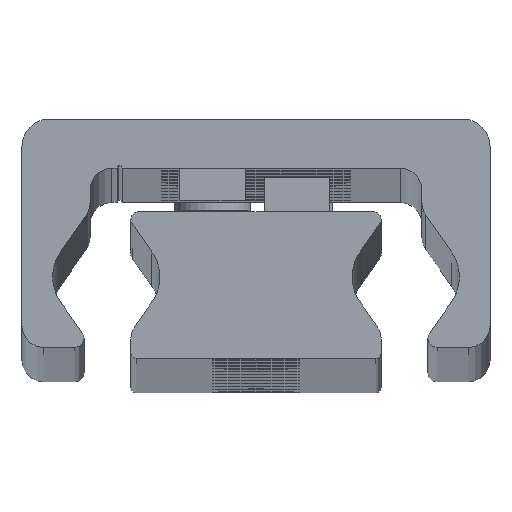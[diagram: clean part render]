
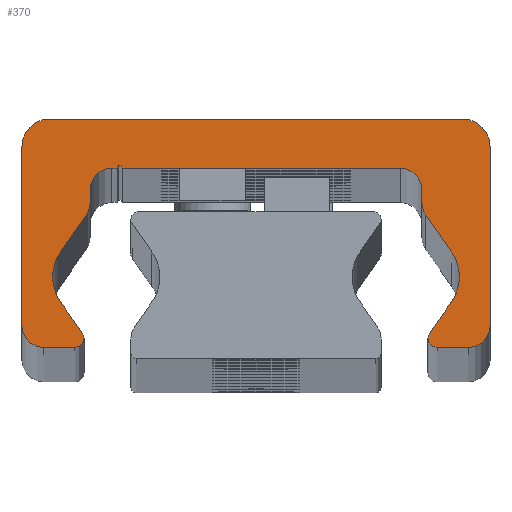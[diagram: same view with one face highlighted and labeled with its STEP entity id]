
A CAD part, top view. The second image highlights one B-rep face of the part: STEP entity #370.
In plain terms, the highlighted planar face has unit normal (0, 0, 1).
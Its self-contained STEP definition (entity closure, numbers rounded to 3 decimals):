
#370=ADVANCED_FACE('',(#1080),#1081,.T.);
#1080=FACE_OUTER_BOUND('',#1791,.T.);
#1081=PLANE('',#1792);
#1791=EDGE_LOOP('',(#4162,#4163,#4164,#4165,#4166,#4167,#4168,#4169,#4170,#4171,#4172,#4173,#4174,#4175,#4176,#4177,#4178,#4179,#4180,#4181,#4182,#4183,#4184,#4185,#4186,#4187,#4188,#4189,#4190,#4191));
#1792=AXIS2_PLACEMENT_3D('',#4192,#4193,#4194);
#4162=ORIENTED_EDGE('',*,*,#4649,.F.);
#4163=ORIENTED_EDGE('',*,*,#4982,.F.);
#4164=ORIENTED_EDGE('',*,*,#4635,.F.);
#4165=ORIENTED_EDGE('',*,*,#4981,.F.);
#4166=ORIENTED_EDGE('',*,*,#4977,.F.);
#4167=ORIENTED_EDGE('',*,*,#4974,.F.);
#4168=ORIENTED_EDGE('',*,*,#4971,.F.);
#4169=ORIENTED_EDGE('',*,*,#4968,.F.);
#4170=ORIENTED_EDGE('',*,*,#4965,.F.);
#4171=ORIENTED_EDGE('',*,*,#4962,.F.);
#4172=ORIENTED_EDGE('',*,*,#4959,.F.);
#4173=ORIENTED_EDGE('',*,*,#4956,.F.);
#4174=ORIENTED_EDGE('',*,*,#4953,.F.);
#4175=ORIENTED_EDGE('',*,*,#4950,.F.);
#4176=ORIENTED_EDGE('',*,*,#4641,.F.);
#4177=ORIENTED_EDGE('',*,*,#4948,.F.);
#4178=ORIENTED_EDGE('',*,*,#4643,.F.);
#4179=ORIENTED_EDGE('',*,*,#4947,.F.);
#4180=ORIENTED_EDGE('',*,*,#4943,.F.);
#4181=ORIENTED_EDGE('',*,*,#4940,.F.);
#4182=ORIENTED_EDGE('',*,*,#4937,.F.);
#4183=ORIENTED_EDGE('',*,*,#4934,.F.);
#4184=ORIENTED_EDGE('',*,*,#4931,.F.);
#4185=ORIENTED_EDGE('',*,*,#4928,.F.);
#4186=ORIENTED_EDGE('',*,*,#4925,.F.);
#4187=ORIENTED_EDGE('',*,*,#4922,.F.);
#4188=ORIENTED_EDGE('',*,*,#4919,.F.);
#4189=ORIENTED_EDGE('',*,*,#4916,.F.);
#4190=ORIENTED_EDGE('',*,*,#4913,.F.);
#4191=ORIENTED_EDGE('',*,*,#4910,.F.);
#4192=CARTESIAN_POINT('',(-0.023,14.187,1810.0));
#4193=DIRECTION('',(0.0,0.0,1.0));
#4194=DIRECTION('',(1.0,0.0,0.0));
#4635=EDGE_CURVE('',#5630,#5633,#5634,.T.);
#4641=EDGE_CURVE('',#5643,#5639,#5645,.T.);
#4643=EDGE_CURVE('',#5646,#5649,#5650,.T.);
#4649=EDGE_CURVE('',#5659,#5655,#5661,.T.);
#4910=EDGE_CURVE('',#5655,#6080,#6081,.T.);
#4913=EDGE_CURVE('',#6080,#6085,#6086,.T.);
#4916=EDGE_CURVE('',#6085,#6090,#6091,.T.);
#4919=EDGE_CURVE('',#6090,#6095,#6096,.T.);
#4922=EDGE_CURVE('',#6095,#6100,#6101,.T.);
#4925=EDGE_CURVE('',#6100,#6105,#6106,.T.);
#4928=EDGE_CURVE('',#6105,#6110,#6111,.T.);
#4931=EDGE_CURVE('',#6110,#6115,#6116,.T.);
#4934=EDGE_CURVE('',#6115,#6120,#6121,.T.);
#4937=EDGE_CURVE('',#6120,#6125,#6126,.T.);
#4940=EDGE_CURVE('',#6125,#6130,#6131,.T.);
#4943=EDGE_CURVE('',#6130,#6135,#6136,.T.);
#4947=EDGE_CURVE('',#6135,#5646,#6141,.T.);
#4948=EDGE_CURVE('',#5649,#5643,#6142,.T.);
#4950=EDGE_CURVE('',#5639,#6144,#6145,.T.);
#4953=EDGE_CURVE('',#6144,#6149,#6150,.T.);
#4956=EDGE_CURVE('',#6149,#6154,#6155,.T.);
#4959=EDGE_CURVE('',#6154,#6159,#6160,.T.);
#4962=EDGE_CURVE('',#6159,#6164,#6165,.T.);
#4965=EDGE_CURVE('',#6164,#6169,#6170,.T.);
#4968=EDGE_CURVE('',#6169,#6174,#6175,.T.);
#4971=EDGE_CURVE('',#6174,#6179,#6180,.T.);
#4974=EDGE_CURVE('',#6179,#6184,#6185,.T.);
#4977=EDGE_CURVE('',#6184,#6189,#6190,.T.);
#4981=EDGE_CURVE('',#6189,#5630,#6195,.T.);
#4982=EDGE_CURVE('',#5633,#5659,#6196,.T.);
#5630=VERTEX_POINT('',#7042);
#5633=VERTEX_POINT('',#7046);
#5634=CIRCLE('',#7047,0.85);
#5639=VERTEX_POINT('',#7053);
#5643=VERTEX_POINT('',#7058);
#5645=CIRCLE('',#7061,0.85);
#5646=VERTEX_POINT('',#7062);
#5649=VERTEX_POINT('',#7066);
#5650=CIRCLE('',#7067,4.);
#5655=VERTEX_POINT('',#7073);
#5659=VERTEX_POINT('',#7078);
#5661=CIRCLE('',#7081,4.);
#6080=VERTEX_POINT('',#7618);
#6081=CIRCLE('',#7619,4.);
#6085=VERTEX_POINT('',#7624);
#6086=LINE('',#7625,#7626);
#6090=VERTEX_POINT('',#7632);
#6091=CIRCLE('',#7633,2.);
#6095=VERTEX_POINT('',#7638);
#6096=LINE('',#7639,#7640);
#6100=VERTEX_POINT('',#7646);
#6101=CIRCLE('',#7647,2.0);
#6105=VERTEX_POINT('',#7652);
#6106=LINE('',#7653,#7654);
#6110=VERTEX_POINT('',#7660);
#6111=CIRCLE('',#7661,0.25);
#6115=VERTEX_POINT('',#7666);
#6116=LINE('',#7667,#7668);
#6120=VERTEX_POINT('',#7674);
#6121=CIRCLE('',#7675,2.0);
#6125=VERTEX_POINT('',#7680);
#6126=LINE('',#7681,#7682);
#6130=VERTEX_POINT('',#7688);
#6131=CIRCLE('',#7689,2.0);
#6135=VERTEX_POINT('',#7694);
#6136=LINE('',#7695,#7696);
#6141=CIRCLE('',#7703,4.);
#6142=LINE('',#7704,#7705);
#6144=VERTEX_POINT('',#7708);
#6145=CIRCLE('',#7709,0.85);
#6149=VERTEX_POINT('',#7714);
#6150=LINE('',#7715,#7716);
#6154=VERTEX_POINT('',#7722);
#6155=CIRCLE('',#7723,2.);
#6159=VERTEX_POINT('',#7728);
#6160=LINE('',#7729,#7730);
#6164=VERTEX_POINT('',#7736);
#6165=CIRCLE('',#7737,2.5);
#6169=VERTEX_POINT('',#7742);
#6170=LINE('',#7743,#7744);
#6174=VERTEX_POINT('',#7750);
#6175=CIRCLE('',#7751,2.5);
#6179=VERTEX_POINT('',#7756);
#6180=LINE('',#7757,#7758);
#6184=VERTEX_POINT('',#7764);
#6185=CIRCLE('',#7765,2.);
#6189=VERTEX_POINT('',#7770);
#6190=LINE('',#7771,#7772);
#6195=CIRCLE('',#7779,0.85);
#6196=LINE('',#7780,#7781);
#7042=CARTESIAN_POINT('',(15.8,1.859,1810.0));
#7046=CARTESIAN_POINT('',(15.922,2.298,1810.0));
#7047=AXIS2_PLACEMENT_3D('',#8607,#8608,#8609);
#7053=CARTESIAN_POINT('',(-15.8,1.859,1810.0));
#7058=CARTESIAN_POINT('',(-15.922,2.298,1810.0));
#7061=AXIS2_PLACEMENT_3D('',#8619,#8620,#8621);
#7062=CARTESIAN_POINT('',(-18.688,7.509,1810.0));
#7066=CARTESIAN_POINT('',(-17.964,5.214,1810.0));
#7067=AXIS2_PLACEMENT_3D('',#8623,#8624,#8625);
#7073=CARTESIAN_POINT('',(18.688,7.509,1810.0));
#7078=CARTESIAN_POINT('',(17.964,5.214,1810.0));
#7081=AXIS2_PLACEMENT_3D('',#8635,#8636,#8637);
#7618=CARTESIAN_POINT('',(17.964,9.803,1810.0));
#7619=AXIS2_PLACEMENT_3D('',#9182,#9183,#9184);
#7624=CARTESIAN_POINT('',(15.612,13.163,1810.0));
#7625=CARTESIAN_POINT('',(15.612,13.163,1810.0));
#7626=VECTOR('',#9189,1.0);
#7632=CARTESIAN_POINT('',(15.25,14.31,1810.0));
#7633=AXIS2_PLACEMENT_3D('',#9192,#9193,#9194);
#7638=CARTESIAN_POINT('',(15.25,15.509,1810.0));
#7639=CARTESIAN_POINT('',(15.25,15.509,1810.0));
#7640=VECTOR('',#9199,1.0);
#7646=CARTESIAN_POINT('',(13.25,17.509,1810.0));
#7647=AXIS2_PLACEMENT_3D('',#9202,#9203,#9204);
#7652=CARTESIAN_POINT('',(-12.25,17.509,1810.0));
#7653=CARTESIAN_POINT('',(-12.25,17.509,1810.0));
#7654=VECTOR('',#9209,1.0);
#7660=CARTESIAN_POINT('',(-12.75,17.509,1810.0));
#7661=AXIS2_PLACEMENT_3D('',#9212,#9213,#9214);
#7666=CARTESIAN_POINT('',(-13.25,17.509,1810.0));
#7667=CARTESIAN_POINT('',(-13.25,17.509,1810.0));
#7668=VECTOR('',#9219,1.0);
#7674=CARTESIAN_POINT('',(-15.25,15.509,1810.0));
#7675=AXIS2_PLACEMENT_3D('',#9222,#9223,#9224);
#7680=CARTESIAN_POINT('',(-15.25,14.31,1810.0));
#7681=CARTESIAN_POINT('',(-15.25,14.31,1810.0));
#7682=VECTOR('',#9229,1.0);
#7688=CARTESIAN_POINT('',(-15.612,13.163,1810.0));
#7689=AXIS2_PLACEMENT_3D('',#9232,#9233,#9234);
#7694=CARTESIAN_POINT('',(-17.964,9.803,1810.0));
#7695=CARTESIAN_POINT('',(-17.964,9.803,1810.0));
#7696=VECTOR('',#9239,1.0);
#7703=AXIS2_PLACEMENT_3D('',#9245,#9246,#9247);
#7704=CARTESIAN_POINT('',(-15.922,2.298,1810.0));
#7705=VECTOR('',#9248,1.0);
#7708=CARTESIAN_POINT('',(-16.65,1.009,1810.0));
#7709=AXIS2_PLACEMENT_3D('',#9250,#9251,#9252);
#7714=CARTESIAN_POINT('',(-19.5,1.009,1810.0));
#7715=CARTESIAN_POINT('',(-19.5,1.009,1810.0));
#7716=VECTOR('',#9257,1.0);
#7722=CARTESIAN_POINT('',(-21.5,3.009,1810.0));
#7723=AXIS2_PLACEMENT_3D('',#9260,#9261,#9262);
#7728=CARTESIAN_POINT('',(-21.5,19.509,1810.0));
#7729=CARTESIAN_POINT('',(-21.5,19.509,1810.0));
#7730=VECTOR('',#9267,1.0);
#7736=CARTESIAN_POINT('',(-19.0,22.009,1810.0));
#7737=AXIS2_PLACEMENT_3D('',#9270,#9271,#9272);
#7742=CARTESIAN_POINT('',(19.0,22.009,1810.0));
#7743=CARTESIAN_POINT('',(19.0,22.009,1810.0));
#7744=VECTOR('',#9277,1.0);
#7750=CARTESIAN_POINT('',(21.5,19.509,1810.0));
#7751=AXIS2_PLACEMENT_3D('',#9280,#9281,#9282);
#7756=CARTESIAN_POINT('',(21.5,3.009,1810.0));
#7757=CARTESIAN_POINT('',(21.5,3.009,1810.0));
#7758=VECTOR('',#9287,1.0);
#7764=CARTESIAN_POINT('',(19.5,1.009,1810.0));
#7765=AXIS2_PLACEMENT_3D('',#9290,#9291,#9292);
#7770=CARTESIAN_POINT('',(16.65,1.009,1810.0));
#7771=CARTESIAN_POINT('',(16.65,1.009,1810.0));
#7772=VECTOR('',#9297,1.0);
#7779=AXIS2_PLACEMENT_3D('',#9303,#9304,#9305);
#7780=CARTESIAN_POINT('',(17.964,5.214,1810.0));
#7781=VECTOR('',#9306,1.0);
#8607=CARTESIAN_POINT('',(16.65,1.859,1810.0));
#8608=DIRECTION('',(0.0,0.0,-1.0));
#8609=DIRECTION('',(1.0,0.0,0.0));
#8619=CARTESIAN_POINT('',(-16.65,1.859,1810.0));
#8620=DIRECTION('',(0.0,0.0,-1.0));
#8621=DIRECTION('',(1.0,0.0,0.0));
#8623=CARTESIAN_POINT('',(-14.688,7.509,1810.0));
#8624=DIRECTION('',(0.0,0.0,1.0));
#8625=DIRECTION('',(1.0,0.0,0.0));
#8635=CARTESIAN_POINT('',(14.688,7.509,1810.0));
#8636=DIRECTION('',(0.0,0.0,1.0));
#8637=DIRECTION('',(1.0,0.0,0.0));
#9182=CARTESIAN_POINT('',(14.688,7.509,1810.0));
#9183=DIRECTION('',(0.0,0.0,1.0));
#9184=DIRECTION('',(1.0,0.0,0.0));
#9189=DIRECTION('',(-0.574,0.819,0.0));
#9192=CARTESIAN_POINT('',(17.25,14.31,1810.0));
#9193=DIRECTION('',(0.0,0.0,-1.0));
#9194=DIRECTION('',(1.0,0.0,0.0));
#9199=DIRECTION('',(0.0,1.0,0.0));
#9202=CARTESIAN_POINT('',(13.25,15.509,1810.0));
#9203=DIRECTION('',(0.0,0.0,1.0));
#9204=DIRECTION('',(1.0,0.0,0.0));
#9209=DIRECTION('',(-1.0,-0.0,-0.0));
#9212=CARTESIAN_POINT('',(-12.5,17.509,1810.0));
#9213=DIRECTION('',(0.0,0.0,1.0));
#9214=DIRECTION('',(1.0,0.0,0.0));
#9219=DIRECTION('',(-1.0,-0.0,-0.0));
#9222=CARTESIAN_POINT('',(-13.25,15.509,1810.0));
#9223=DIRECTION('',(0.0,0.0,1.0));
#9224=DIRECTION('',(1.0,0.0,0.0));
#9229=DIRECTION('',(-0.0,-1.0,-0.0));
#9232=CARTESIAN_POINT('',(-17.25,14.31,1810.0));
#9233=DIRECTION('',(0.0,0.0,-1.0));
#9234=DIRECTION('',(1.0,0.0,0.0));
#9239=DIRECTION('',(-0.574,-0.819,-0.0));
#9245=CARTESIAN_POINT('',(-14.688,7.509,1810.0));
#9246=DIRECTION('',(0.0,0.0,1.0));
#9247=DIRECTION('',(1.0,0.0,0.0));
#9248=DIRECTION('',(0.574,-0.819,0.0));
#9250=CARTESIAN_POINT('',(-16.65,1.859,1810.0));
#9251=DIRECTION('',(0.0,0.0,-1.0));
#9252=DIRECTION('',(1.0,0.0,0.0));
#9257=DIRECTION('',(-1.0,-0.0,-0.0));
#9260=CARTESIAN_POINT('',(-19.5,3.009,1810.0));
#9261=DIRECTION('',(0.0,0.0,-1.0));
#9262=DIRECTION('',(1.0,0.0,0.0));
#9267=DIRECTION('',(0.0,1.0,0.0));
#9270=CARTESIAN_POINT('',(-19.0,19.509,1810.0));
#9271=DIRECTION('',(0.0,0.0,-1.0));
#9272=DIRECTION('',(1.0,0.0,0.0));
#9277=DIRECTION('',(1.0,0.0,0.0));
#9280=CARTESIAN_POINT('',(19.0,19.509,1810.0));
#9281=DIRECTION('',(0.0,0.0,-1.0));
#9282=DIRECTION('',(1.0,0.0,0.0));
#9287=DIRECTION('',(-0.0,-1.0,-0.0));
#9290=CARTESIAN_POINT('',(19.5,3.009,1810.0));
#9291=DIRECTION('',(0.0,0.0,-1.0));
#9292=DIRECTION('',(1.0,0.0,0.0));
#9297=DIRECTION('',(-1.0,-0.0,-0.0));
#9303=CARTESIAN_POINT('',(16.65,1.859,1810.0));
#9304=DIRECTION('',(0.0,0.0,-1.0));
#9305=DIRECTION('',(1.0,0.0,0.0));
#9306=DIRECTION('',(0.574,0.819,0.0));
